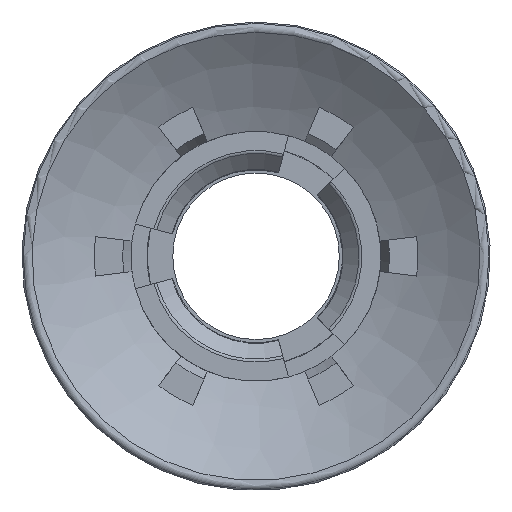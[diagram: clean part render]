
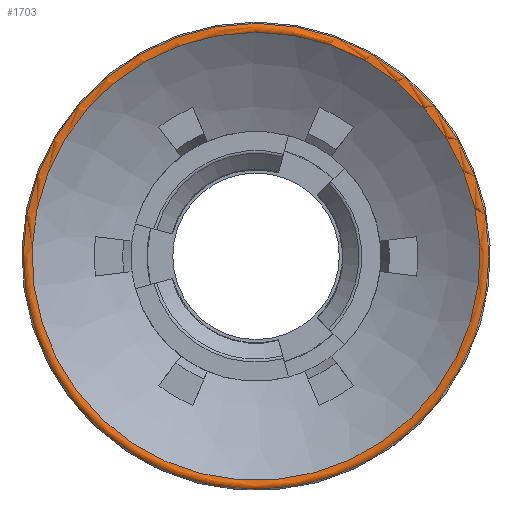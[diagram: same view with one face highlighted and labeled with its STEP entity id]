
A CAD part, front view. The second image highlights one B-rep face of the part: STEP entity #1703.
In plain terms, the highlighted toroidal (fillet/blend) face has major radius 10.95 mm and minor radius 0.3 mm.
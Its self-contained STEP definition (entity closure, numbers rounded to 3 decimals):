
#365 = CARTESIAN_POINT ( 'NONE',  ( 0., -24.38, 11.19 ) ) ;
#660 = AXIS2_PLACEMENT_3D ( 'NONE', #4855, #1436, #2325 ) ;
#699 = DIRECTION ( 'NONE',  ( 0., 0., 1. ) ) ;
#805 = FACE_OUTER_BOUND ( 'NONE', #3571, .T. ) ;
#997 = TOROIDAL_SURFACE ( 'NONE', #5303, 10.95, 0.3 ) ;
#1436 = DIRECTION ( 'NONE',  ( 0., 1., 0. ) ) ;
#1703 = ADVANCED_FACE ( 'NONE', ( #805, #5526 ), #997, .T. ) ;
#1735 = AXIS2_PLACEMENT_3D ( 'NONE', #4887, #3625, #4494 ) ;
#2325 = DIRECTION ( 'NONE',  ( 0., 0., 1. ) ) ;
#2563 = CARTESIAN_POINT ( 'NONE',  ( 0., -24.435, 10.764 ) ) ;
#2593 = ORIENTED_EDGE ( 'NONE', *, *, #4622, .T. ) ;
#2840 = CARTESIAN_POINT ( 'NONE',  ( 0., -24.2, 0. ) ) ;
#3221 = EDGE_LOOP ( 'NONE', ( #4152 ) ) ;
#3408 = VERTEX_POINT ( 'NONE', #365 ) ;
#3440 = CIRCLE ( 'NONE', #1735, 10.764 ) ;
#3571 = EDGE_LOOP ( 'NONE', ( #2593 ) ) ;
#3625 = DIRECTION ( 'NONE',  ( 0., 1., 0. ) ) ;
#3809 = VERTEX_POINT ( 'NONE', #2563 ) ;
#4152 = ORIENTED_EDGE ( 'NONE', *, *, #4608, .F. ) ;
#4494 = DIRECTION ( 'NONE',  ( 0., 0., 1. ) ) ;
#4554 = DIRECTION ( 'NONE',  ( 0., 1., 0. ) ) ;
#4608 = EDGE_CURVE ( 'NONE', #3408, #3408, #5145, .T. ) ;
#4622 = EDGE_CURVE ( 'NONE', #3809, #3809, #3440, .T. ) ;
#4855 = CARTESIAN_POINT ( 'NONE',  ( 0., -24.38, 0. ) ) ;
#4887 = CARTESIAN_POINT ( 'NONE',  ( 0., -24.435, 0. ) ) ;
#5145 = CIRCLE ( 'NONE', #660, 11.19 ) ;
#5303 = AXIS2_PLACEMENT_3D ( 'NONE', #2840, #4554, #699 ) ;
#5526 = FACE_OUTER_BOUND ( 'NONE', #3221, .T. ) ;
